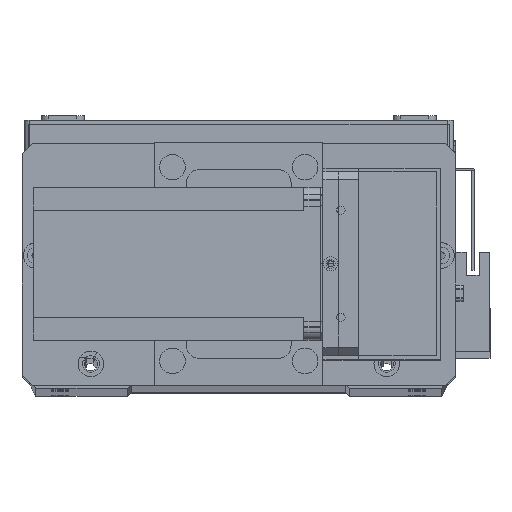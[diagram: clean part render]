
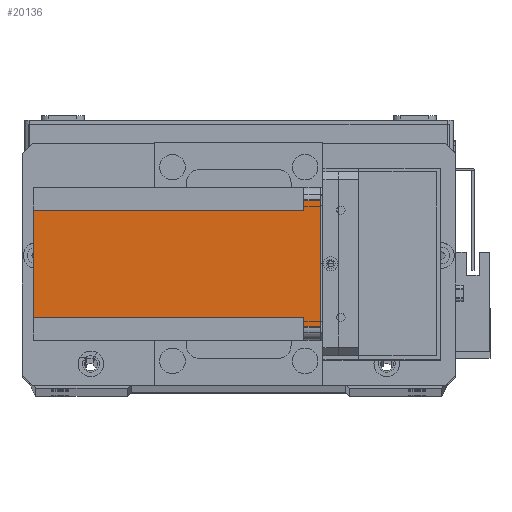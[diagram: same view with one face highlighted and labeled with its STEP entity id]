
A CAD part, top view. The second image highlights one B-rep face of the part: STEP entity #20136.
In plain terms, the highlighted planar face has unit normal (0, 0, 1) as drawn and (-1, 0, 0) by its records, which use the part's own axes.
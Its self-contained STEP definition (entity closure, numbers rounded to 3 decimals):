
#1896 = VERTEX_POINT ( 'NONE', #18875 ) ;
#2477 = CARTESIAN_POINT ( 'NONE',  ( 0., 9., -112.5 ) ) ;
#2984 = VECTOR ( 'NONE', #10061, 1000. ) ;
#3048 = LINE ( 'NONE', #25162, #26416 ) ;
#3268 = ORIENTED_EDGE ( 'NONE', *, *, #25630, .F. ) ;
#3425 = LINE ( 'NONE', #25879, #22552 ) ;
#3480 = DIRECTION ( 'NONE',  ( 0., 0., 1. ) ) ;
#3656 = CARTESIAN_POINT ( 'NONE',  ( 0., 5., -6.5 ) ) ;
#3703 = VERTEX_POINT ( 'NONE', #2477 ) ;
#3851 = VECTOR ( 'NONE', #12022, 1000. ) ;
#6338 = CARTESIAN_POINT ( 'NONE',  ( 0., 51., -6.5 ) ) ;
#7990 = DIRECTION ( 'NONE',  ( -1., 0., 0. ) ) ;
#8442 = CARTESIAN_POINT ( 'NONE',  ( 0., 55., -112.5 ) ) ;
#9279 = VERTEX_POINT ( 'NONE', #6338 ) ;
#9858 = DIRECTION ( 'NONE',  ( 0., -1., 0. ) ) ;
#10061 = DIRECTION ( 'NONE',  ( 0., 0., -1. ) ) ;
#10580 = VERTEX_POINT ( 'NONE', #3656 ) ;
#10903 = VERTEX_POINT ( 'NONE', #14345 ) ;
#11116 = AXIS2_PLACEMENT_3D ( 'NONE', #15325, #7990, #25129 ) ;
#11577 = ORIENTED_EDGE ( 'NONE', *, *, #25099, .T. ) ;
#12022 = DIRECTION ( 'NONE',  ( 0., 1., 0. ) ) ;
#12123 = EDGE_LOOP ( 'NONE', ( #24875, #11577, #17492, #21944, #23915, #28075, #30421, #3268 ) ) ;
#14345 = CARTESIAN_POINT ( 'NONE',  ( 0., 55., -6.5 ) ) ;
#15220 = CARTESIAN_POINT ( 'NONE',  ( 0., 51., -112.5 ) ) ;
#15325 = CARTESIAN_POINT ( 'NONE',  ( 0., 0., -112.5 ) ) ;
#15443 = DIRECTION ( 'NONE',  ( 0., -1., 0. ) ) ;
#15625 = VERTEX_POINT ( 'NONE', #17040 ) ;
#16742 = CARTESIAN_POINT ( 'NONE',  ( 0., 0., -112.5 ) ) ;
#16769 = VECTOR ( 'NONE', #25765, 1000. ) ;
#17040 = CARTESIAN_POINT ( 'NONE',  ( 0., 5., 0. ) ) ;
#17205 = CARTESIAN_POINT ( 'NONE',  ( 0., 9., -112.5 ) ) ;
#17492 = ORIENTED_EDGE ( 'NONE', *, *, #24625, .F. ) ;
#17626 = PLANE ( 'NONE',  #11116 ) ;
#17795 = VERTEX_POINT ( 'NONE', #30683 ) ;
#18042 = DIRECTION ( 'NONE',  ( 0., 0., -1. ) ) ;
#18875 = CARTESIAN_POINT ( 'NONE',  ( 0., 55., 0. ) ) ;
#19344 = LINE ( 'NONE', #16742, #24442 ) ;
#20136 = ADVANCED_FACE ( 'NONE', ( #29362 ), #17626, .T. ) ;
#20800 = CARTESIAN_POINT ( 'NONE',  ( 0., 60., -6.5 ) ) ;
#21944 = ORIENTED_EDGE ( 'NONE', *, *, #25287, .T. ) ;
#22177 = VECTOR ( 'NONE', #22362, 1000. ) ;
#22362 = DIRECTION ( 'NONE',  ( 0., 0., 1. ) ) ;
#22552 = VECTOR ( 'NONE', #3480, 1000. ) ;
#23915 = ORIENTED_EDGE ( 'NONE', *, *, #25334, .F. ) ;
#24094 = LINE ( 'NONE', #20800, #16769 ) ;
#24442 = VECTOR ( 'NONE', #9858, 1000. ) ;
#24625 = EDGE_CURVE ( 'NONE', #1896, #15625, #3048, .T. ) ;
#24875 = ORIENTED_EDGE ( 'NONE', *, *, #25054, .F. ) ;
#25054 = EDGE_CURVE ( 'NONE', #10580, #17795, #30215, .T. ) ;
#25099 = EDGE_CURVE ( 'NONE', #10580, #15625, #28699, .T. ) ;
#25129 = DIRECTION ( 'NONE',  ( 0., -1., 0. ) ) ;
#25162 = CARTESIAN_POINT ( 'NONE',  ( 0., 0., 0. ) ) ;
#25287 = EDGE_CURVE ( 'NONE', #1896, #10903, #32130, .T. ) ;
#25334 = EDGE_CURVE ( 'NONE', #9279, #10903, #24094, .T. ) ;
#25392 = EDGE_CURVE ( 'NONE', #32166, #9279, #3425, .T. ) ;
#25571 = EDGE_CURVE ( 'NONE', #32166, #3703, #19344, .T. ) ;
#25630 = EDGE_CURVE ( 'NONE', #17795, #3703, #29411, .T. ) ;
#25765 = DIRECTION ( 'NONE',  ( 0., 1., 0. ) ) ;
#25879 = CARTESIAN_POINT ( 'NONE',  ( 0., 51., -112.5 ) ) ;
#26416 = VECTOR ( 'NONE', #15443, 1000. ) ;
#28075 = ORIENTED_EDGE ( 'NONE', *, *, #25392, .F. ) ;
#28699 = LINE ( 'NONE', #29735, #22177 ) ;
#29362 = FACE_OUTER_BOUND ( 'NONE', #12123, .T. ) ;
#29411 = LINE ( 'NONE', #17205, #2984 ) ;
#29735 = CARTESIAN_POINT ( 'NONE',  ( 0., 5., -112.5 ) ) ;
#30215 = LINE ( 'NONE', #31566, #3851 ) ;
#30421 = ORIENTED_EDGE ( 'NONE', *, *, #25571, .T. ) ;
#30596 = VECTOR ( 'NONE', #18042, 1000. ) ;
#30683 = CARTESIAN_POINT ( 'NONE',  ( 0., 9., -6.5 ) ) ;
#31566 = CARTESIAN_POINT ( 'NONE',  ( 0., 0., -6.5 ) ) ;
#32130 = LINE ( 'NONE', #8442, #30596 ) ;
#32166 = VERTEX_POINT ( 'NONE', #15220 ) ;
